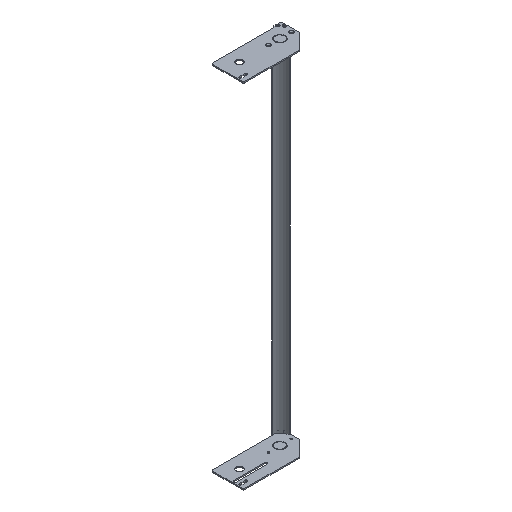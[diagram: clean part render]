
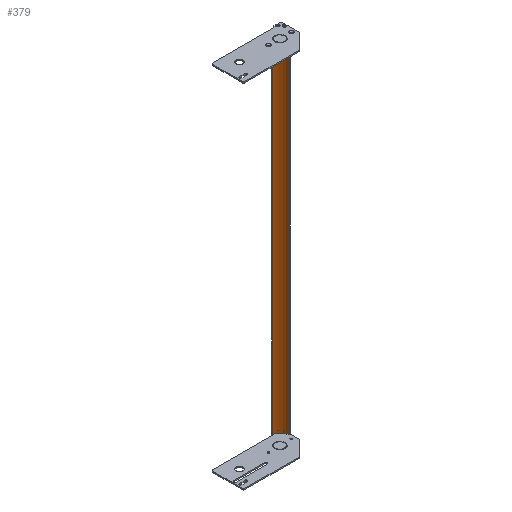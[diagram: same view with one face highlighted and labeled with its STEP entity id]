
A CAD part, isometric view. The second image highlights one B-rep face of the part: STEP entity #379.
In plain terms, the highlighted cylindrical face has radius 40.64 mm (diameter 81.28 mm), a partial arc.
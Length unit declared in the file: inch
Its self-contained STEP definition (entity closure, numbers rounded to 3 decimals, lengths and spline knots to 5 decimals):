
#19=CARTESIAN_POINT('',(-1.63,-1.52,-19.118));
#20=DIRECTION('',(0.,0.,1.));
#21=DIRECTION('',(0.946,0.325,0.));
#22=AXIS2_PLACEMENT_3D('',#19,#20,#21);
#70=DIRECTION('',(0.,0.,1.));
#71=VECTOR('',#70,38.236);
#72=CARTESIAN_POINT('',(-0.98126,-0.05742,-19.118));
#73=LINE('',#72,#71);
#89=CARTESIAN_POINT('',(-1.63,-1.52,19.118));
#90=DIRECTION('',(0.,0.,-1.));
#91=DIRECTION('',(0.405,0.914,0.));
#92=AXIS2_PLACEMENT_3D('',#89,#90,#91);
#139=DIRECTION('',(0.,0.,1.));
#140=VECTOR('',#139,38.236);
#141=CARTESIAN_POINT('',(-0.11675,-1.00032,-19.118));
#142=LINE('',#141,#140);
#175=CARTESIAN_POINT('',(-0.98126,-0.05742,-19.118));
#177=VERTEX_POINT('',#175);
#183=CARTESIAN_POINT('',(-0.98126,-0.05742,19.118));
#184=VERTEX_POINT('',#183);
#187=CARTESIAN_POINT('',(-0.11675,-1.00032,-19.118));
#188=CARTESIAN_POINT('',(-0.11675,-1.00032,19.118));
#189=VERTEX_POINT('',#187);
#190=VERTEX_POINT('',#188);
#368=CARTESIAN_POINT('',(-1.63,-1.52,19.118));
#369=DIRECTION('',(0.,0.,-1.));
#370=DIRECTION('',(-1.,0.,0.));
#371=AXIS2_PLACEMENT_3D('',#368,#369,#370);
#372=CYLINDRICAL_SURFACE('',#371,1.6);
#373=ORIENTED_EDGE('',*,*,#234,.T.);
#374=ORIENTED_EDGE('',*,*,#279,.T.);
#375=ORIENTED_EDGE('',*,*,#300,.T.);
#376=ORIENTED_EDGE('',*,*,#361,.F.);
#377=EDGE_LOOP('',(#373,#374,#375,#376));
#378=FACE_OUTER_BOUND('',#377,.F.);
#23=CIRCLE('',#22,1.6);
#93=CIRCLE('',#92,1.6);
#234=EDGE_CURVE('',#189,#177,#23,.T.);
#279=EDGE_CURVE('',#177,#184,#73,.T.);
#300=EDGE_CURVE('',#184,#190,#93,.T.);
#361=EDGE_CURVE('',#189,#190,#142,.T.);
#379=ADVANCED_FACE('',(#378),#372,.F.);
